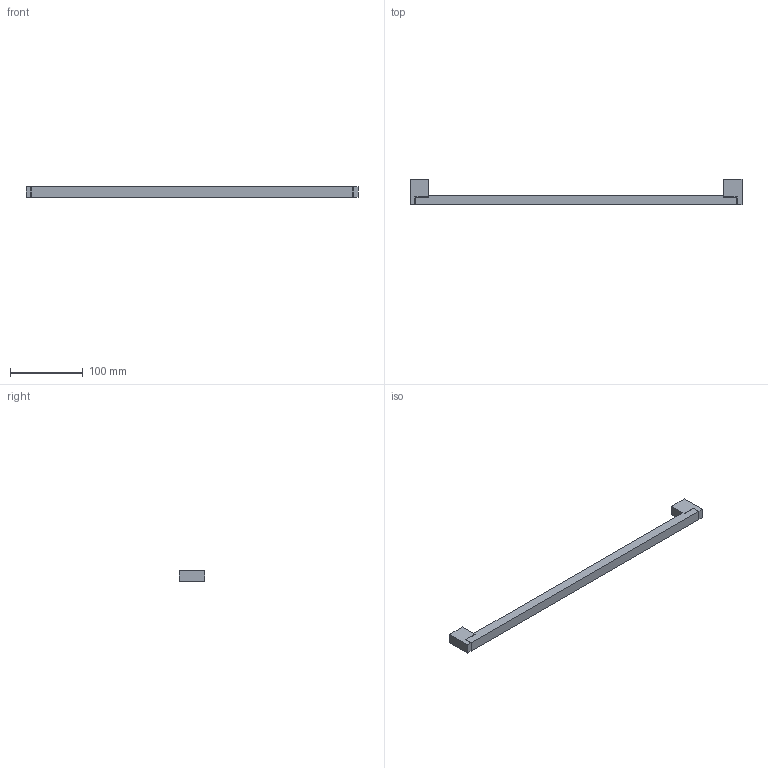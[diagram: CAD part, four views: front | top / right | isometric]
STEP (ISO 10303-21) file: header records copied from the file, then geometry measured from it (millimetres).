
FILE_DESCRIPTION( ( '' ), '1' );
FILE_NAME( 'D:/1.AUTOCAD EXPORT/Group 10/sheet_10_1/9071751.stp', '2013-10-16T10:46:45', ( '' ), ( '' ), ' ', ' ', ' ' );
FILE_SCHEMA( ( 'automotive_design' ) );
Length unit declared in the file: millimetre
Products named in the file (1): 1
Bounding box: 456 x 35 x 14 mm (x, y, z)
Volume: 98184.9 mm3; surface area: 28681.4 mm2
Topology: 1 solids, 1 shells, 44 faces, 120 edges, 80 vertices
Faces by surface type: plane 40, cylinder 4
Entity records: 2748 total; most frequent: STYLED_ITEM 245, PRESENTATION_STYLE_ASSIGNMENT 245, CARTESIAN_POINT 245, COLOUR_RGB 245, ORIENTED_EDGE 240, DIRECTION 218, EDGE_CURVE 120, CURVE_STYLE 120
